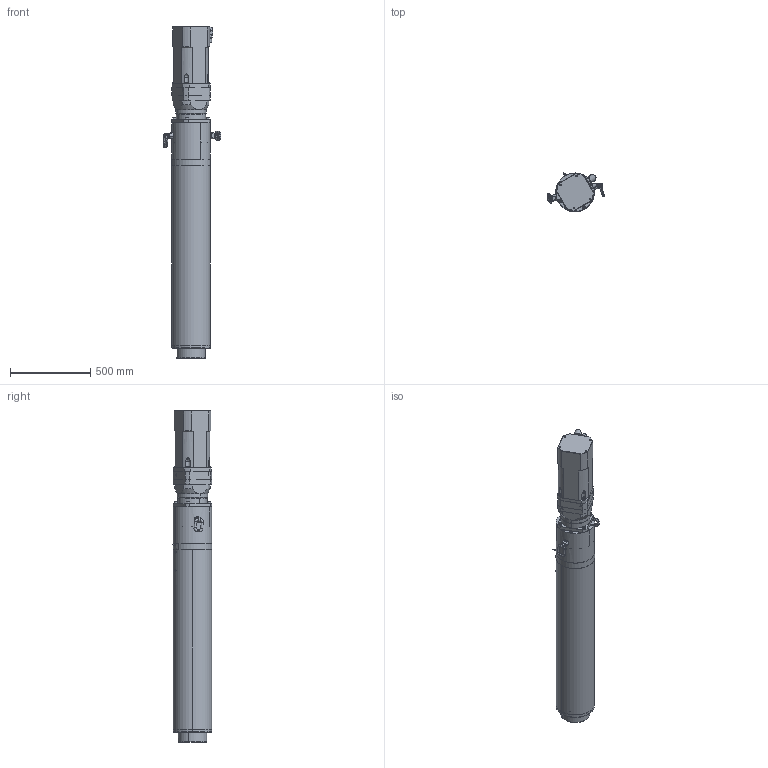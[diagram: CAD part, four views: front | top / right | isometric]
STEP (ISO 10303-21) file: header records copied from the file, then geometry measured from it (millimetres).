
FILE_DESCRIPTION (( 'STEP AP214' ), '1' );
FILE_NAME ('RLWIK200D-075-010HG0.STEP', '2023-04-06T06:25:13', ( '' ), ( '' ), 'SwSTEP 2.0', 'SolidWorks 2021', '' );
FILE_SCHEMA (( 'AUTOMOTIVE_DESIGN' ));
Length unit declared in the file: millimetre
Products named in the file (1): RLWIK200D-075-010HG0
Bounding box: 356.89 x 245.71 x 2067 mm (x, y, z)
Surface area: 4114801.2 mm2 (no closed solid volume)
Topology: 0 solids, 38 shells, 1336 faces, 3186 edges, 1936 vertices
Faces by surface type: cylinder 566, plane 454, cone 228, torus 82, bspline 6
Entity records: 55129 total; most frequent: CARTESIAN_POINT 9115, DIRECTION 6889, ORIENTED_EDGE 6092, EDGE_CURVE 3052, AXIS2_PLACEMENT_3D 2736, VERTEX_POINT 1936, EDGE_LOOP 1582, LINE 1417
